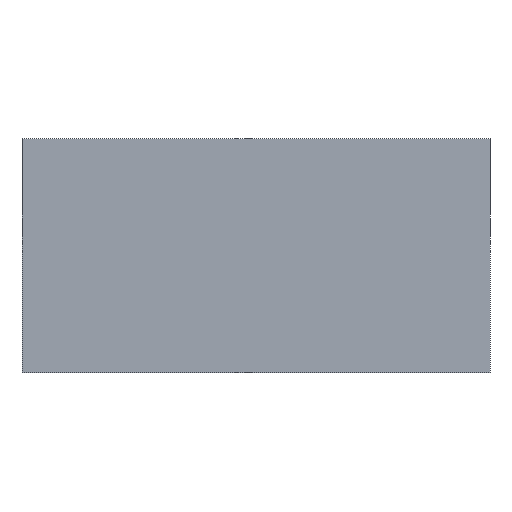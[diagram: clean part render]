
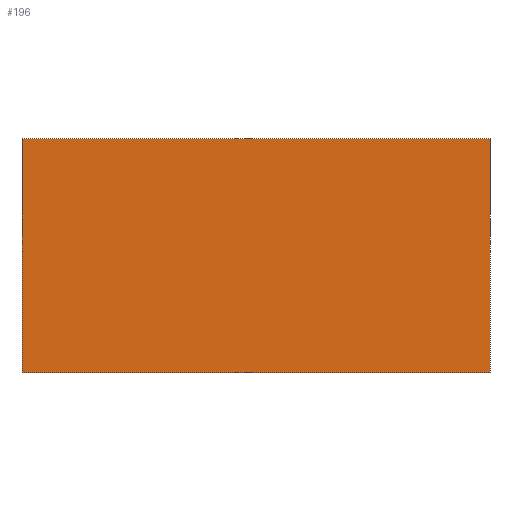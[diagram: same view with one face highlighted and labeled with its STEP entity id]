
A CAD part, front view. The second image highlights one B-rep face of the part: STEP entity #196.
In plain terms, the highlighted planar face has unit normal (0, -1, 0).
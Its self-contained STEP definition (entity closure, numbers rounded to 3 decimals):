
#2 = EDGE_CURVE ( 'NONE', #193, #179, #30, .T. ) ;
#12 = LINE ( 'NONE', #109, #194 ) ;
#24 = CARTESIAN_POINT ( 'NONE',  ( -41.983, 0., -7.155 ) ) ;
#25 = ORIENTED_EDGE ( 'NONE', *, *, #2, .F. ) ;
#30 = LINE ( 'NONE', #186, #183 ) ;
#36 = PLANE ( 'NONE',  #110 ) ;
#39 = LINE ( 'NONE', #82, #155 ) ;
#43 = ORIENTED_EDGE ( 'NONE', *, *, #172, .F. ) ;
#44 = ORIENTED_EDGE ( 'NONE', *, *, #215, .F. ) ;
#45 = VERTEX_POINT ( 'NONE', #125 ) ;
#54 = CARTESIAN_POINT ( 'NONE',  ( -21.983, 0., -17.155 ) ) ;
#59 = CARTESIAN_POINT ( 'NONE',  ( 0., 0., 0. ) ) ;
#61 = EDGE_CURVE ( 'NONE', #45, #193, #182, .T. ) ;
#66 = ORIENTED_EDGE ( 'NONE', *, *, #61, .F. ) ;
#68 = DIRECTION ( 'NONE',  ( 0., 0., -1. ) ) ;
#74 = CARTESIAN_POINT ( 'NONE',  ( -21.983, 0., -17.155 ) ) ;
#82 = CARTESIAN_POINT ( 'NONE',  ( -41.983, 0., -7.155 ) ) ;
#86 = DIRECTION ( 'NONE',  ( 0., 0., 1. ) ) ;
#109 = CARTESIAN_POINT ( 'NONE',  ( -41.983, 0., -17.155 ) ) ;
#110 = AXIS2_PLACEMENT_3D ( 'NONE', #59, #129, #227 ) ;
#125 = CARTESIAN_POINT ( 'NONE',  ( -21.983, 0., -7.155 ) ) ;
#128 = FACE_OUTER_BOUND ( 'NONE', #154, .T. ) ;
#129 = DIRECTION ( 'NONE',  ( 0., 1., 0. ) ) ;
#141 = CARTESIAN_POINT ( 'NONE',  ( -41.983, 0., -17.155 ) ) ;
#142 = DIRECTION ( 'NONE',  ( -1., 0., 0. ) ) ;
#154 = EDGE_LOOP ( 'NONE', ( #43, #25, #66, #44 ) ) ;
#155 = VECTOR ( 'NONE', #171, 1000. ) ;
#171 = DIRECTION ( 'NONE',  ( 1., 0., 0. ) ) ;
#172 = EDGE_CURVE ( 'NONE', #179, #228, #12, .T. ) ;
#179 = VERTEX_POINT ( 'NONE', #141 ) ;
#182 = LINE ( 'NONE', #54, #200 ) ;
#183 = VECTOR ( 'NONE', #142, 1000. ) ;
#186 = CARTESIAN_POINT ( 'NONE',  ( -41.983, 0., -17.155 ) ) ;
#193 = VERTEX_POINT ( 'NONE', #74 ) ;
#194 = VECTOR ( 'NONE', #86, 1000. ) ;
#196 = ADVANCED_FACE ( 'NONE', ( #128 ), #36, .F. ) ;
#200 = VECTOR ( 'NONE', #68, 1000. ) ;
#215 = EDGE_CURVE ( 'NONE', #228, #45, #39, .T. ) ;
#227 = DIRECTION ( 'NONE',  ( 0., 0., 1. ) ) ;
#228 = VERTEX_POINT ( 'NONE', #24 ) ;
